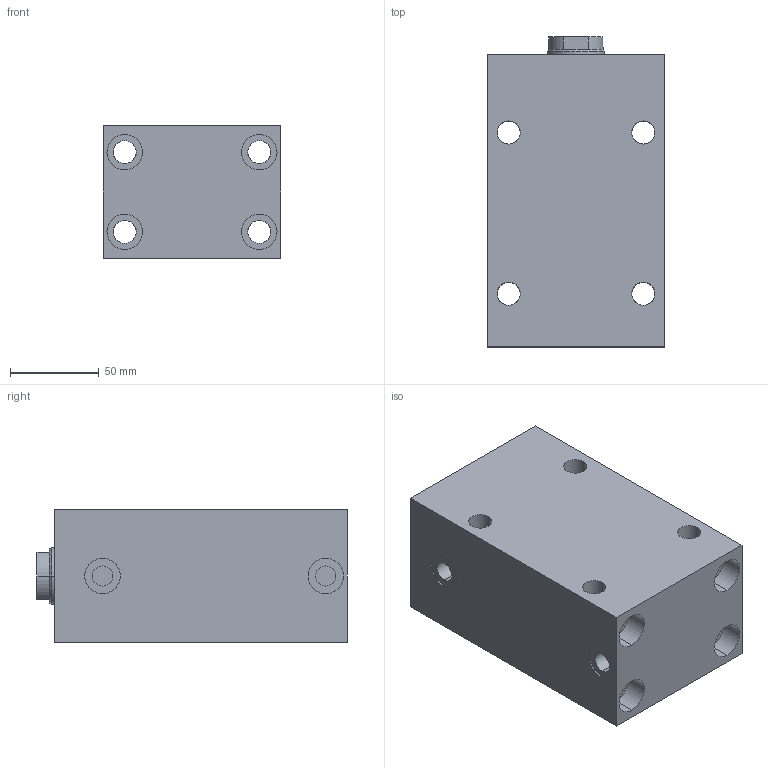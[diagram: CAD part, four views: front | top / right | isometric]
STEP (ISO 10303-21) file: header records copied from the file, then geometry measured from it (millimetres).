
FILE_DESCRIPTION (( 'STEP AP203' ), '1' );
FILE_NAME ('GERMA_Blockzylinder_600-050-100.STEP', '2015-08-22T18:30:42', ( '' ), ( '' ), 'SwSTEP 2.0', 'SolidWorks 2015', '' );
FILE_SCHEMA (( 'CONFIG_CONTROL_DESIGN' ));
Length unit declared in the file: millimetre
Products named in the file (3): GH-600-050_GH-600-050-100; Kolben 60x-050_Kolben DU.50-Hub100-IG; GERMA_Blockzylinder_600-050-100
Assembly tree (2 placements, depth 2):
  GERMA_Blockzylinder_600-050-100
    GH-600-050_GH-600-050-100
    Kolben 60x-050_Kolben DU.50-Hub100-IG
Bounding box: 100 x 175 x 75 mm (x, y, z)
Volume: 981754.6 mm3; surface area: 156159.4 mm2
Topology: 2 solids, 2 shells, 137 faces, 328 edges, 194 vertices
Faces by surface type: cylinder 93, plane 30, cone 14
Entity records: 4262 total; most frequent: CARTESIAN_POINT 850, DIRECTION 675, ORIENTED_EDGE 644, EDGE_CURVE 322, AXIS2_PLACEMENT_3D 275, VERTEX_POINT 194, EDGE_LOOP 174, ADVANCED_FACE 137
